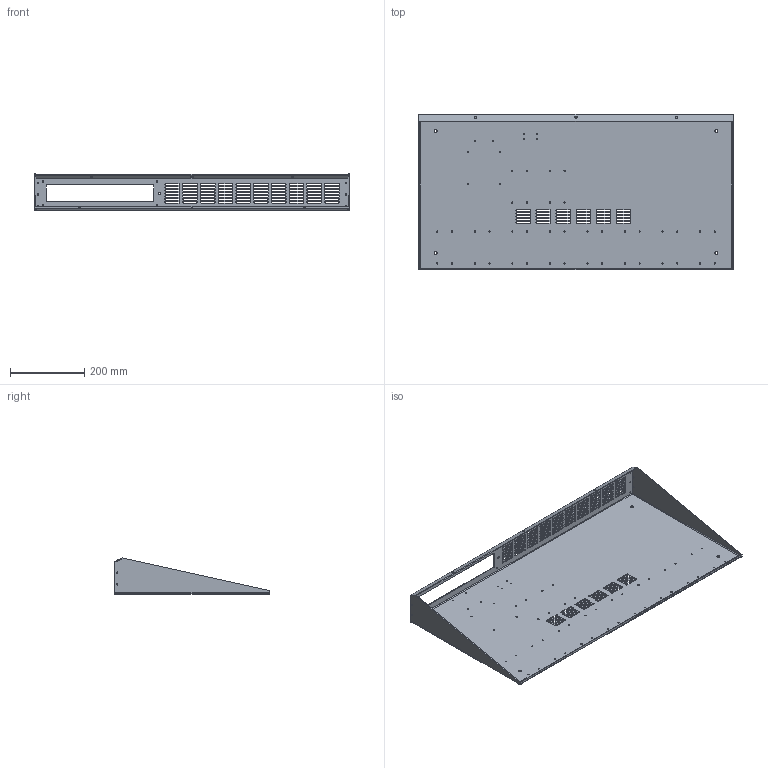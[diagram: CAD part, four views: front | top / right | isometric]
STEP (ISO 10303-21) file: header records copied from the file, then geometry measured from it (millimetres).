
FILE_DESCRIPTION(('Open CASCADE Model'),'2;1');
FILE_NAME('Open CASCADE Shape Model','2026-07-01T01:49:46',('Author'),( 'Open CASCADE'),'Open CASCADE STEP processor 7.9','Open CASCADE 7.9' ,'Unknown');
FILE_SCHEMA(('AUTOMOTIVE_DESIGN { 1 0 10303 214 1 1 1 1 }'));
Products named in the file (1): Open CASCADE STEP translator 7.9 1
Bounding box: 846 x 419 x 97.34 mm (x, y, z)
Volume: 922344.5 mm3; surface area: 947428.7 mm2
Topology: 1 solids, 1 shells, 3172 faces, 9490 edges, 6306 vertices
Faces by surface type: plane 3075, cylinder 97
Full cylindrical faces by diameter (mm): 2.4 x4, 3.2 x62, 6.3 x3, 6.5 x1, 8 x4
Entity records: 225543 total; most frequent: CARTESIAN_POINT 42717, DIRECTION 31129, LINE 24328, VECTOR 24328, ORIENTED_EDGE 18980, PCURVE 18980, DEFINITIONAL_REPRESENTATION 18980, EDGE_CURVE 9490
